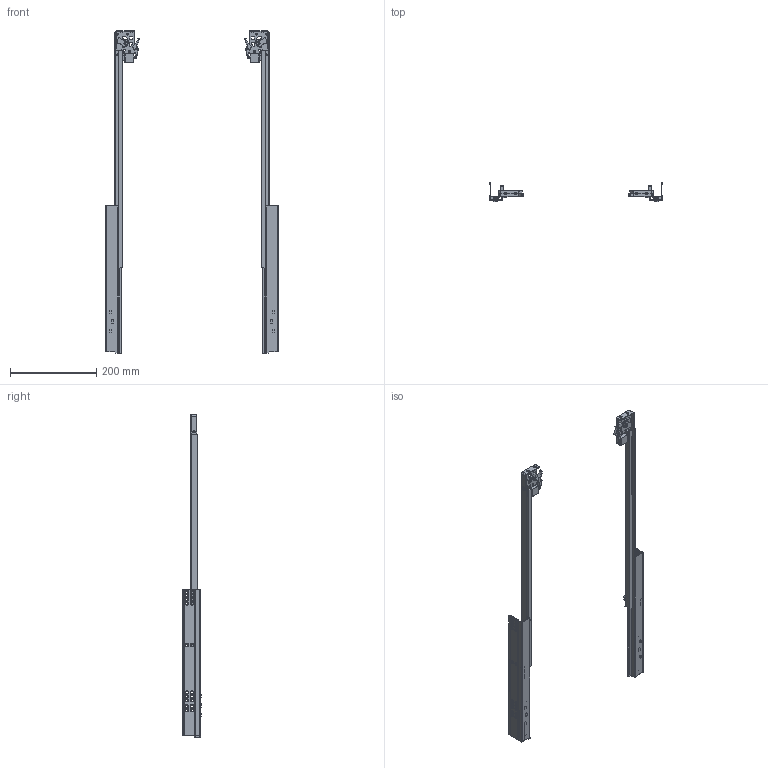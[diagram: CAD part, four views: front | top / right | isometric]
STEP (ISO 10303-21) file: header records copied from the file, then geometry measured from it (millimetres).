
FILE_DESCRIPTION(/* description */ (''),/* implementation_level */ '2;1');
FILE_NAME(/* name */ 'D:\$Workingspace\Designs\Katalog\Cadsoft\GTV Prowadnice\Prowadnice GTV_bryły 3D\PB-GCHX-550_wysunieta.stp',/* time_stamp */ '2016-11-21T15:30:12+01:00',/* author */ ('tomaszw'),/* organization */ (''),/* preprocessor_version */ 'ST-DEVELOPER v16.1',/* originating_system */ 'Autodesk Inventor 2016',/* authorisation */ '');
FILE_SCHEMA (('AUTOMOTIVE_DESIGN { 1 0 10303 214 3 1 1 }'));
Length unit declared in the file: millimetre
Products named in the file (7): PB-GCHX-CL-550; PB-GCHX-CR-550; PB-GCHX-DL-550; PB-GCHX-DR-550; PB-GCHX-SL; PB-GCHX-SR; PB-GCHX
Assembly tree (6 placements, depth 2):
  PB-GCHX
    PB-GCHX-CL-550
    PB-GCHX-CR-550
    PB-GCHX-DL-550
    PB-GCHX-DR-550
    PB-GCHX-SL
    PB-GCHX-SR
Bounding box: 400 x 43.8 x 748.5 mm (x, y, z)
Volume: 252653.7 mm3; surface area: 276080 mm2
Topology: 16 solids, 16 shells, 1208 faces, 2884 edges, 1710 vertices
Faces by surface type: cylinder 452, plane 342, torus 222, sphere 82, bspline 70, cone 40
Full cylindrical faces by diameter (mm): 2 x2, 3 x2, 4 x6, 4.5 x6, 5 x2, 6 x40, 7.889 x2, 9 x2
Entity records: 41163 total; most frequent: CARTESIAN_POINT 12113, DIRECTION 6126, ORIENTED_EDGE 5416, EDGE_CURVE 2706, AXIS2_PLACEMENT_3D 2427, VERTEX_POINT 1658, EDGE_LOOP 1474, CIRCLE 1276
